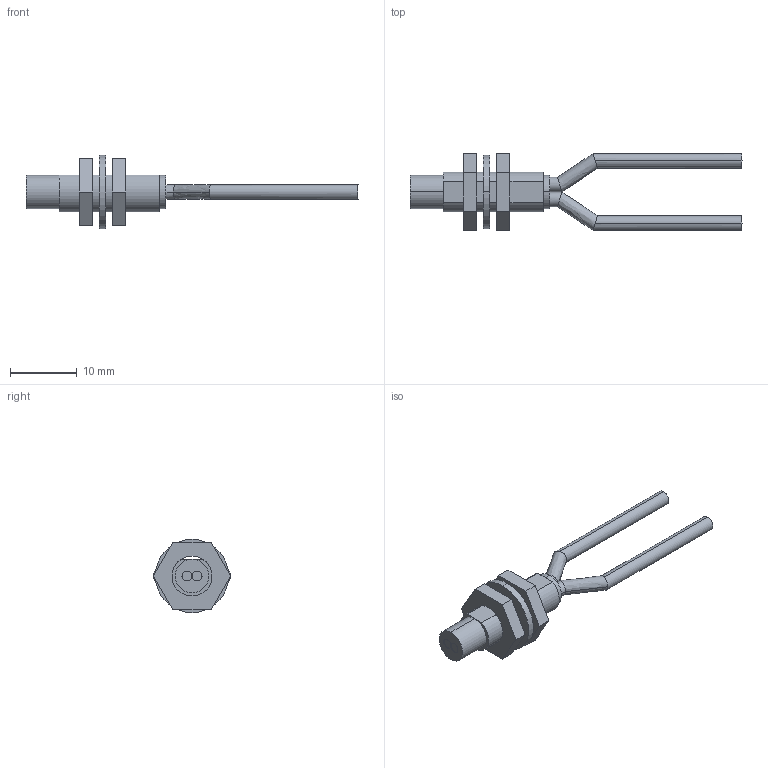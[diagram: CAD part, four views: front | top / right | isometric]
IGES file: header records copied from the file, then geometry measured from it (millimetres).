
Start section: SolidWorks IGES FILE using analytic representation for surfaces
Global section: file name: C:\Documents and Settings\yk0651\デスクトップ\3D_catalog_050929\0_IGES\FD-H13-FM2.IGS; native system: SolidWorks 2004 by SolidWorks Corporation; preprocessor: Version 5.3; author: yk0651; date: 051002.174624; units: millimetre
Bounding box: 49.81 x 11.55 x 11 mm (x, y, z)
Volume: 1054.5 mm3; surface area: 1477.4 mm2
Topology: 4 solids, 4 shells, 56 faces, 122 edges, 80 vertices
Faces by surface type: revolution 29, plane 27
